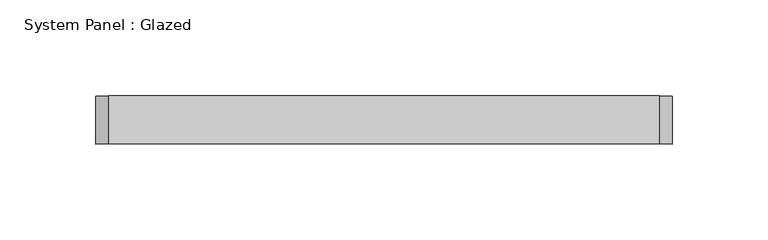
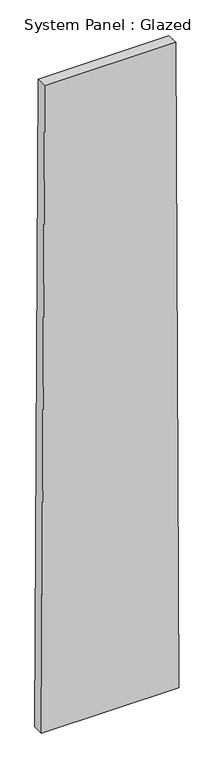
"""IFC4 building model written with IfcOpenShell, lengths in millimetres: plate geometry, System Panel : Glazed."""

import ifcopenshell
import ifcopenshell.guid

model = None  # the IFC model being written
_history = None  # IfcOwnerHistory: only IFC2X3 demands one
_inside = {}  # id of a spatial element -> (the spatial element, [elements in it])
_under = {}  # id of a project, library or spatial element -> (it, [spatial elements below it])
_declared = {}  # id of a project -> (the project, [libraries it declares])
_typed = {}  # id of a type object -> (the type object, [elements of that type])
_made_of = {}  # id of a material, layer set ... -> (it, [elements and type objects made of it])


def new_model(schema):
    """Start an empty IFC model of exactly this schema.

    Asked for "IFC4X3", IfcOpenShell would pick the latest addendum, in which some entities
    have other attributes; the version numbers below select the first issue.
    IFC2X3 requires an IfcOwnerHistory on every rooted entity: one is made here for all.
    """
    global model, _history
    if schema == "IFC4X3":
        model = ifcopenshell.file(schema_version=(4, 3, 0, 0))
    else:
        model = ifcopenshell.file(schema=schema)
    _inside.clear()
    _under.clear()
    _declared.clear()
    _typed.clear()
    _made_of.clear()
    _history = None
    if model.schema == "IFC2X3":
        org = make("IfcOrganization", Name="unknown")
        user = make(
            "IfcPersonAndOrganization",
            ThePerson=make("IfcPerson", FamilyName="unknown"),
            TheOrganization=org,
        )
        app = make(
            "IfcApplication",
            ApplicationDeveloper=org,
            Version="unknown",
            ApplicationFullName="unknown",
            ApplicationIdentifier="unknown",
        )
        _history = make(
            "IfcOwnerHistory",
            OwningUser=user,
            OwningApplication=app,
            ChangeAction="ADDED",
            CreationDate=0,
        )
    return model


def make(cls, **values):
    """One entity of the class cls with the attributes given. An attribute that is None is left unset."""
    return model.create_entity(
        cls, **{name: value for name, value in values.items() if value is not None}
    )


def rooted(cls, **values):
    """An entity with a GlobalId (a new one), such as an element, a storey or a relation."""
    return make(cls, GlobalId=ifcopenshell.guid.new(), OwnerHistory=_history, **values)


def si_unit(unit_type, name, prefix=None):
    """IfcSIUnit, for example si_unit("LENGTHUNIT", "METRE", prefix="MILLI")."""
    return make("IfcSIUnit", UnitType=unit_type, Prefix=prefix, Name=name)


def assignment(units):
    """IfcUnitAssignment: the units of a project."""
    return None if units is None else make("IfcUnitAssignment", Units=units)


def point(xyz):
    """IfcCartesianPoint."""
    return None if xyz is None else make("IfcCartesianPoint", Coordinates=xyz)


def direction(xyz):
    """IfcDirection."""
    return None if xyz is None else make("IfcDirection", DirectionRatios=xyz)


def frame(location, z_axis=None, x_axis=None):
    """IfcAxis2Placement3D, a coordinate frame: its origin and axes. An axis left out is left unset."""
    return make(
        "IfcAxis2Placement3D",
        Location=point(location),
        Axis=direction(z_axis),
        RefDirection=direction(x_axis),
    )


def origin():
    """The frame at (0, 0, 0) with its axes left unset."""
    return frame((0.0, 0.0, 0.0))


def place(relative_to, where):
    """IfcLocalPlacement: puts the frame where relative to a parent placement (None: the world)."""
    return make(
        "IfcLocalPlacement", PlacementRelTo=relative_to, RelativePlacement=where
    )


def context(
    kind, dimensions, precision=None, world=None, true_north=None, identifier=None
):
    """IfcGeometricRepresentationContext, for example the 3D "Model" context."""
    return make(
        "IfcGeometricRepresentationContext",
        ContextIdentifier=identifier,
        ContextType=kind,
        CoordinateSpaceDimension=dimensions,
        Precision=precision,
        WorldCoordinateSystem=world,
        TrueNorth=true_north,
    )


def project(units=None, contexts=None):
    """IfcProject with its units and contexts."""
    return rooted(
        "IfcProject",
        Name="project",
        RepresentationContexts=contexts,
        UnitsInContext=assignment(units),
    )


def spatial(cls, under=None, at=None, **own):
    """A site, building, storey or space (cls), placed at a placement, below another one or the project."""
    s = rooted(cls, ObjectPlacement=at, **own)
    if under is not None:
        _under.setdefault(under.id(), (under, []))[1].append(s)
    return s


def polyline(points):
    """IfcPolyline through the points."""
    return make("IfcPolyline", Points=[point(p) for p in points])


def outline(outer, holes=None, kind="AREA"):
    """IfcArbitraryClosedProfileDef: a profile drawn as a closed curve; with holes, ...WithVoids."""
    if holes is None:
        return make("IfcArbitraryClosedProfileDef", ProfileType=kind, OuterCurve=outer)
    return make(
        "IfcArbitraryProfileDefWithVoids",
        ProfileType=kind,
        OuterCurve=outer,
        InnerCurves=holes,
    )


def extrude(swept, where, along, depth):
    """IfcExtrudedAreaSolid: the profile swept, set in the frame where, extruded along a direction by depth."""
    return make(
        "IfcExtrudedAreaSolid",
        SweptArea=swept,
        Position=where,
        ExtrudedDirection=direction(along),
        Depth=depth,
    )


def shape(context_of_items, identifier, shape_type, items):
    """IfcShapeRepresentation: the items that make up one representation, for example the "Body"."""
    return make(
        "IfcShapeRepresentation",
        ContextOfItems=context_of_items,
        RepresentationIdentifier=identifier,
        RepresentationType=shape_type,
        Items=items,
    )


def source(mapping_origin, context_of_items, identifier, shape_type, items):
    """IfcRepresentationMap: a shape defined once, which mapped items show again and again."""
    return make(
        "IfcRepresentationMap",
        MappingOrigin=mapping_origin,
        MappedRepresentation=shape(context_of_items, identifier, shape_type, items),
    )


def transform(
    local_origin,
    x_axis=None,
    y_axis=None,
    z_axis=None,
    scale=None,
    scale2=None,
    scale3=None,
    uniform=True,
):
    """IfcCartesianTransformationOperator3D, or its non-uniform kind. x_axis, y_axis, z_axis: its Axis1, 2, 3."""
    if uniform:
        return make(
            "IfcCartesianTransformationOperator3D",
            Axis1=direction(x_axis),
            Axis2=direction(y_axis),
            LocalOrigin=point(local_origin),
            Scale=scale,
            Axis3=direction(z_axis),
        )
    return make(
        "IfcCartesianTransformationOperator3DnonUniform",
        Axis1=direction(x_axis),
        Axis2=direction(y_axis),
        LocalOrigin=point(local_origin),
        Scale=scale,
        Axis3=direction(z_axis),
        Scale2=scale2,
        Scale3=scale3,
    )


def mapped(mapping_source, mapping_target):
    """IfcMappedItem: shows the shape of a source again, moved by a transform."""
    return make(
        "IfcMappedItem", MappingSource=mapping_source, MappingTarget=mapping_target
    )


def made_of(thing, what):
    """Note that an element or type object is made of a material, layer set ...; save() writes the relation."""
    if what is not None:
        _made_of.setdefault(what.id(), (what, []))[1].append(thing)
    return thing


def element(
    cls,
    number,
    at=None,
    inside=None,
    cuts=None,
    type_object=None,
    material=None,
    context=None,
    identifier="Body",
    shape_type=None,
    held_by="IfcProductDefinitionShape",
    body=None,
    shapes=None,
    **own,
):
    """One element of the class cls, such as IfcWall. Its Tag is "e" and its number.

    at: its placement. inside: the storey or other place that contains it. cuts: it is an
    opening in that element (IfcRelVoidsElement). A single representation is given by context,
    identifier, shape_type and body (its items); several are given by shapes. held_by: the class
    of the entity that holds the representations. save() writes the other relations.
    """
    e = rooted(cls, Tag="e%d" % number, ObjectPlacement=at, **own)
    if body is not None:
        shapes = [shape(context, identifier, shape_type, body)]
    if shapes is not None:
        e.Representation = make(held_by, Representations=shapes)
    if inside is not None:
        _inside.setdefault(inside.id(), (inside, []))[1].append(e)
    if cuts is not None:
        rooted(
            "IfcRelVoidsElement", RelatingBuildingElement=cuts, RelatedOpeningElement=e
        )
    if type_object is not None:
        _typed.setdefault(type_object.id(), (type_object, []))[1].append(e)
    return made_of(e, material)


def aggregate(whole, parts):
    """IfcRelAggregates: a whole, such as a stair, and the parts it consists of."""
    return rooted("IfcRelAggregates", RelatingObject=whole, RelatedObjects=parts)


def save(model, path):
    """Write the relations noted so far, then the file.

    IfcRelAggregates (storeys below a building ...), IfcRelContainedInSpatialStructure (elements
    in a storey), IfcRelDefinesByType, IfcRelAssociatesMaterial and IfcRelDeclares: one each for
    every whole, place, type object, material and project.
    """
    for whole, parts in _under.values():
        aggregate(whole, parts)
    for where, things in _inside.values():
        rooted(
            "IfcRelContainedInSpatialStructure",
            RelatedElements=things,
            RelatingStructure=where,
        )
    for kind, things in _typed.values():
        rooted("IfcRelDefinesByType", RelatedObjects=things, RelatingType=kind)
    for what, things in _made_of.values():
        rooted("IfcRelAssociatesMaterial", RelatedObjects=things, RelatingMaterial=what)
    for by, libraries in _declared.values():
        rooted("IfcRelDeclares", RelatingContext=by, RelatedDefinitions=libraries)
    model.write(path)


def system_panel_glazed_782504b5(model_context):
    return source(origin(), model_context, "Body", "SweptSolid", [
        extrude(outline(polyline([(0.0, -150.6273977), (0.0, 150.6273977), (1499.9842512, 143.7537438), (1499.9842512, -143.7538037), (0.0, -150.6273977)])), frame((0.0, -49.5, 0.0), z_axis=(0.0, 1.0, 0.0), x_axis=(0.0, 0.0, 1.0)), (0.0, 0.0, 1.0), 25.0),
    ])


if __name__ == "__main__":
    model = new_model("IFC4")
    model_context = context("Model", 3, world=origin())
    ifc_project = project(units=[si_unit("LENGTHUNIT", "METRE", prefix="MILLI")], contexts=[model_context])
    site = spatial("IfcSite", under=ifc_project)
    building = spatial("IfcBuilding", under=site)
    placement = place(None, origin())
    system_panel_glazed_shape = system_panel_glazed_782504b5(model_context)
    element("IfcPlate", 1, ObjectType="System Panel : Glazed", at=placement, inside=building, context=model_context, shape_type="MappedRepresentation", body=[
        mapped(system_panel_glazed_shape, transform((0.0, 0.0, 0.0), x_axis=(1.0, 0.0, 0.0), y_axis=(0.0, 1.0, 0.0), z_axis=(0.0, 0.0, 1.0))),
    ])
    save(model, "model.ifc")
